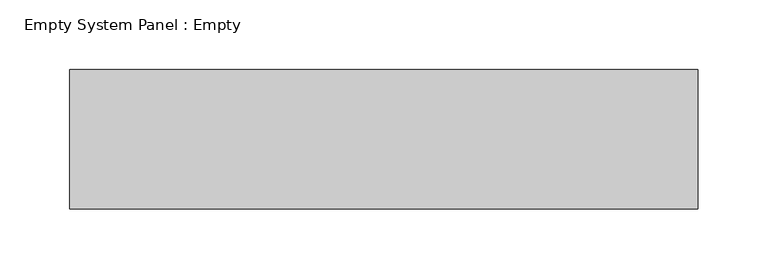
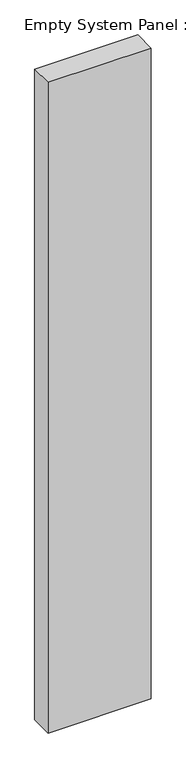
"""IFC4 building model written with IfcOpenShell, lengths in millimetres: plate geometry, Empty System Panel : Empty."""

from ifc_helpers import new_model, si_unit, origin, origin_with_axes, place, context, project, spatial, polyline, outline, extrude, source, transform, mapped, element, save


def empty_system_panel_empty_c3984c60(model_context):
    return source(origin(), model_context, "Body", "SweptSolid", [
        extrude(outline(polyline([(225.0, -50.0), (-225.0, -50.0), (-225.0, 50.0), (225.0, 50.0), (225.0, -50.0)])), origin_with_axes(), (0.0, 0.0, 1.0), 3000.0),
    ])


if __name__ == "__main__":
    model = new_model("IFC4")
    model_context = context("Model", 3, world=origin())
    ifc_project = project(units=[si_unit("LENGTHUNIT", "METRE", prefix="MILLI")], contexts=[model_context])
    site = spatial("IfcSite", under=ifc_project)
    building = spatial("IfcBuilding", under=site)
    placement = place(None, origin())
    empty_system_panel_empty_shape = empty_system_panel_empty_c3984c60(model_context)
    element("IfcPlate", 1, ObjectType="Empty System Panel : Empty", at=placement, inside=building, context=model_context, shape_type="MappedRepresentation", body=[
        mapped(empty_system_panel_empty_shape, transform((0.0, 0.0, 0.0), x_axis=(1.0, 0.0, 0.0), y_axis=(0.0, 1.0, 0.0), z_axis=(0.0, 0.0, 1.0))),
    ])
    save(model, "model.ifc")
